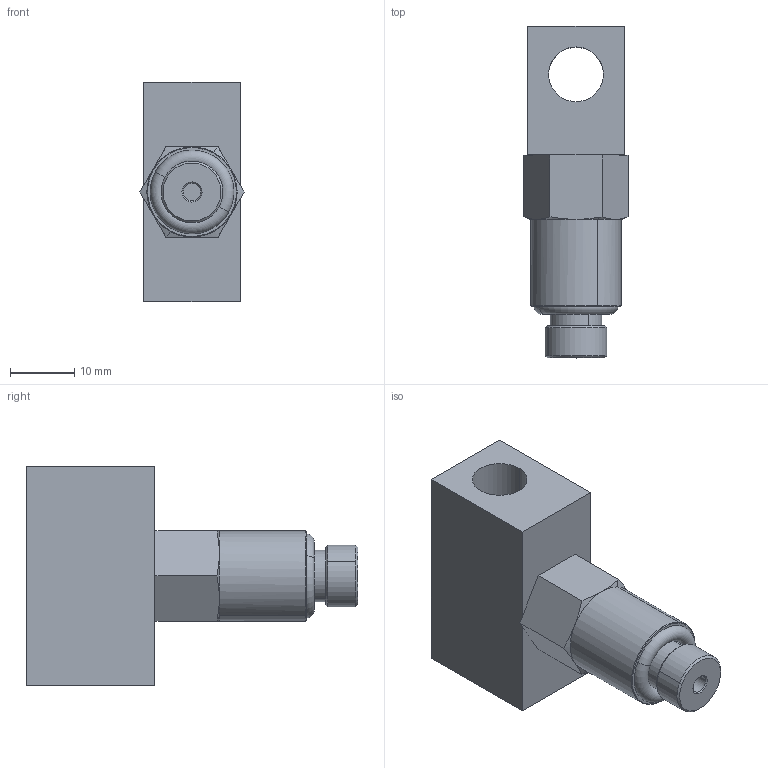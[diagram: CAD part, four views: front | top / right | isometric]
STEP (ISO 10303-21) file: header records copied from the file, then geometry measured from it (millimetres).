
FILE_DESCRIPTION(('CATIA V5 STEP Exchange'),'2;1');
FILE_NAME('C:\Users\Anderj\Desktop\RMF-T.1.stp','2016-11-24T08:41:42+00:00',('none'),('none'),'CATIA Version 5 Release 17 (IN-10)','CATIA V5 STEP AP203','none');
FILE_SCHEMA(('CONFIG_CONTROL_DESIGN'));
Length unit declared in the file: millimetre
Products named in the file (1): RMF-T.1
Bounding box: 16.17 x 51.5 x 34 mm (x, y, z)
Volume: 12425.8 mm3; surface area: 5719.7 mm2
Topology: 2 solids, 2 shells, 54 faces, 124 edges, 76 vertices
Faces by surface type: plane 20, cone 16, cylinder 14, torus 4
Entity records: 1494 total; most frequent: CARTESIAN_POINT 341, ORIENTED_EDGE 248, DIRECTION 178, EDGE_CURVE 124, AXIS2_PLACEMENT_3D 89, VERTEX_POINT 76, EDGE_LOOP 60, VECTOR 56
